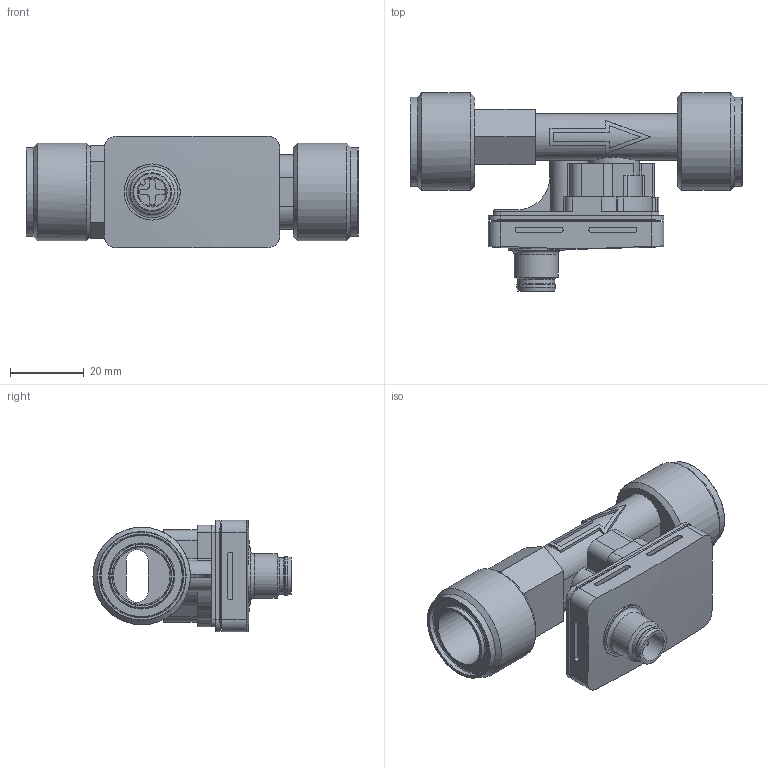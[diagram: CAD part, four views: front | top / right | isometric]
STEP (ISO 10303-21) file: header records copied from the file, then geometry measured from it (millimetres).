
FILE_DESCRIPTION(/* description */ ('STEP AP203'),/* implementation_level */ '2;1');
FILE_NAME(/* name */ 'SV5051',/* time_stamp */ '2024-07-01T10:51:34+02:00',/* author */ ('License CC BY-ND 4.0'),/* organization */ ('CADENAS'),/* preprocessor_version */ 'ST-DEVELOPER v19.3',/* originating_system */ 'PARTsolutions',/* authorisation */ ' ');
FILE_SCHEMA (('CONFIG_CONTROL_DESIGN'));
Length unit declared in the file: millimetre
Products named in the file (1): SV5051
Bounding box: 90 x 53.72 x 30.2 mm (x, y, z)
Volume: 42741.3 mm3; surface area: 17938.2 mm2
Topology: 1 solids, 1 shells, 270 faces, 698 edges, 455 vertices
Faces by surface type: plane 147, cylinder 99, torus 16, cone 7, sphere 1
Full cylindrical faces by diameter (mm): 10 x1, 10.4 x1, 12 x1, 15.2 x1, 16 x2, 17.4 x2, 22.5 x2, 24.1 x2, 26.44 x2
Entity records: 8172 total; most frequent: DIRECTION 1475, CARTESIAN_POINT 1444, ORIENTED_EDGE 1320, EDGE_CURVE 660, AXIS2_PLACEMENT_3D 555, VERTEX_POINT 453, LINE 365, VECTOR 365
